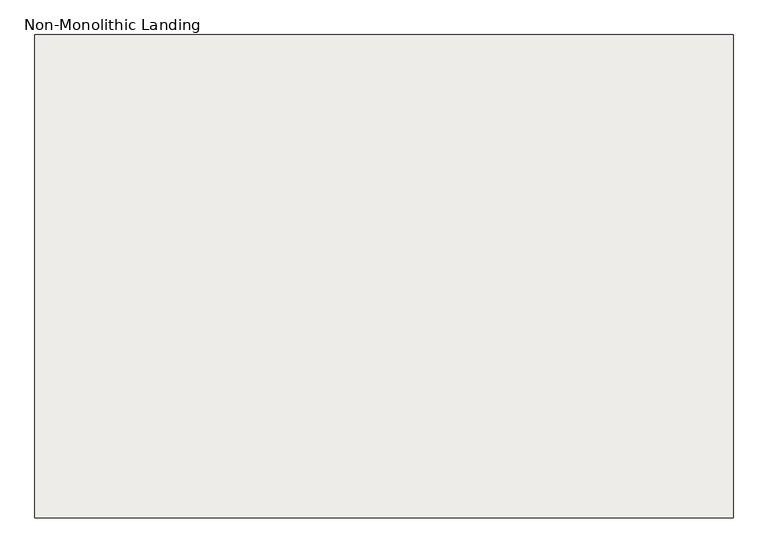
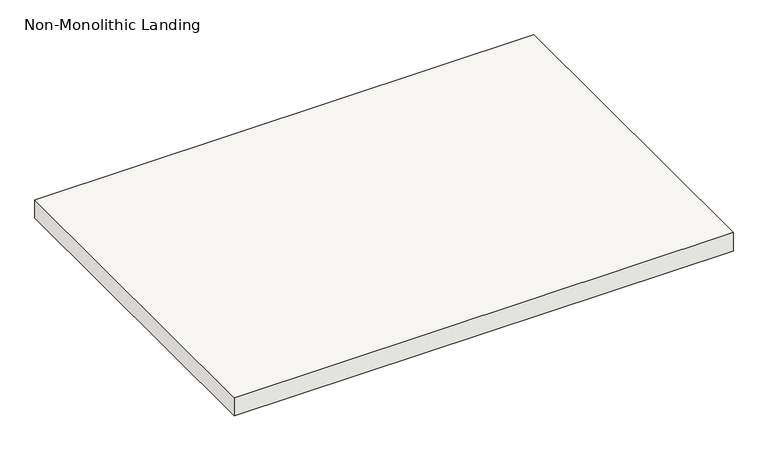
"""IFC4 building model written with IfcOpenShell, lengths in millimetres: slab geometry, Non-Monolithic Landing."""

from ifc_helpers import new_model, si_unit, frame, origin, place, context, project, spatial, polyline, outline, extrude, source, transform, mapped, element, save


def non_monolithic_landing_63f62785(model_context):
    return source(origin(), model_context, "Body", "SweptSolid", [
        extrude(outline(polyline([(136956.2474271, 16760.4395941), (138277.0474271, 16760.4395941), (138277.0474271, 15846.0395941), (136956.2474271, 15846.0395941), (136956.2474271, 16760.4395941)])), frame((0.0, 0.0, 2126.3428571), z_axis=(0.0, 0.0, 1.0), x_axis=(1.0, 0.0, 0.0)), (0.0, 0.0, 1.0), 50.8),
    ])


if __name__ == "__main__":
    model = new_model("IFC4")
    model_context = context("Model", 3, world=origin())
    ifc_project = project(units=[si_unit("LENGTHUNIT", "METRE", prefix="MILLI")], contexts=[model_context])
    site = spatial("IfcSite", under=ifc_project)
    building = spatial("IfcBuilding", under=site)
    placement = place(None, origin())
    non_monolithic_landing_shape = non_monolithic_landing_63f62785(model_context)
    element("IfcSlab", 1, ObjectType="Non-Monolithic Landing", at=placement, inside=building, context=model_context, shape_type="MappedRepresentation", body=[
        mapped(non_monolithic_landing_shape, transform((0.0, 0.0, 0.0), x_axis=(1.0, 0.0, 0.0), y_axis=(0.0, 1.0, 0.0), z_axis=(0.0, 0.0, 1.0))),
    ])
    save(model, "model.ifc")
